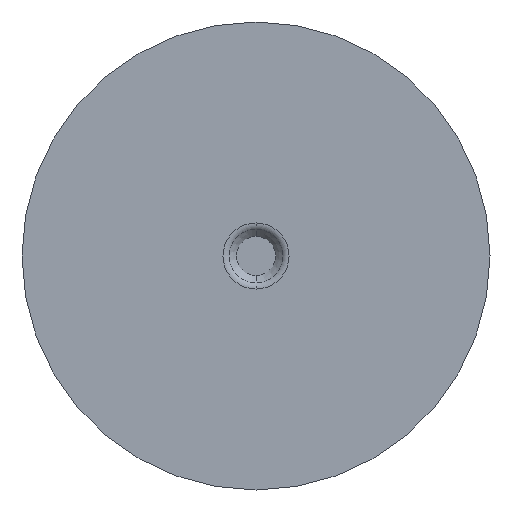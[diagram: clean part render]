
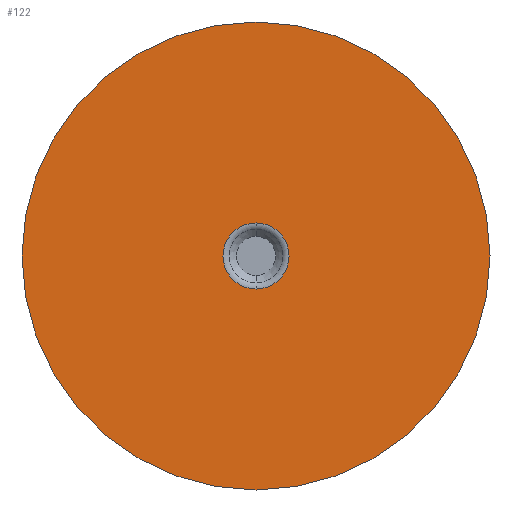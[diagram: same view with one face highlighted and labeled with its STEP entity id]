
A CAD part, front view. The second image highlights one B-rep face of the part: STEP entity #122.
In plain terms, the highlighted planar face has unit normal (0, -1, 0).
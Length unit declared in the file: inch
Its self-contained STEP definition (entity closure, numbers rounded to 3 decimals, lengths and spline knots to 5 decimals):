
#24 = VERTEX_POINT ( 'NONE', #281 ) ;
#32 = ORIENTED_EDGE ( 'NONE', *, *, #369, .F. ) ;
#36 = VERTEX_POINT ( 'NONE', #116 ) ;
#68 = CARTESIAN_POINT ( 'NONE',  ( 0., -0.129, -0.23527 ) ) ;
#100 = DIRECTION ( 'NONE',  ( 0., 0., 1. ) ) ;
#109 = DIRECTION ( 'NONE',  ( 0., 1., 0. ) ) ;
#116 = CARTESIAN_POINT ( 'NONE',  ( 0., -0.129, -1.66724 ) ) ;
#117 = AXIS2_PLACEMENT_3D ( 'NONE', #519, #301, #100 ) ;
#122 = ADVANCED_FACE ( 'NONE', ( #248, #285 ), #175, .F. ) ;
#124 = ORIENTED_EDGE ( 'NONE', *, *, #292, .T. ) ;
#131 = AXIS2_PLACEMENT_3D ( 'NONE', #485, #109, #187 ) ;
#148 = EDGE_LOOP ( 'NONE', ( #401, #124 ) ) ;
#174 = CIRCLE ( 'NONE', #117, 1.66724 ) ;
#175 = PLANE ( 'NONE',  #440 ) ;
#187 = DIRECTION ( 'NONE',  ( 0., 0., 1. ) ) ;
#194 = EDGE_LOOP ( 'NONE', ( #202, #32 ) ) ;
#202 = ORIENTED_EDGE ( 'NONE', *, *, #414, .F. ) ;
#230 = CIRCLE ( 'NONE', #131, 0.23527 ) ;
#236 = CARTESIAN_POINT ( 'NONE',  ( 0., -0.129, 0. ) ) ;
#248 = FACE_OUTER_BOUND ( 'NONE', #194, .T. ) ;
#260 = CIRCLE ( 'NONE', #335, 0.23527 ) ;
#266 = CARTESIAN_POINT ( 'NONE',  ( 0., -0.129, 0. ) ) ;
#272 = CIRCLE ( 'NONE', #399, 1.66724 ) ;
#274 = VERTEX_POINT ( 'NONE', #480 ) ;
#281 = CARTESIAN_POINT ( 'NONE',  ( 0., -0.129, 0.23527 ) ) ;
#285 = FACE_BOUND ( 'NONE', #148, .T. ) ;
#292 = EDGE_CURVE ( 'NONE', #451, #24, #230, .T. ) ;
#301 = DIRECTION ( 'NONE',  ( 0., 1., 0. ) ) ;
#309 = DIRECTION ( 'NONE',  ( 0., 1., 0. ) ) ;
#335 = AXIS2_PLACEMENT_3D ( 'NONE', #236, #494, #543 ) ;
#369 = EDGE_CURVE ( 'NONE', #36, #274, #272, .T. ) ;
#399 = AXIS2_PLACEMENT_3D ( 'NONE', #266, #309, #444 ) ;
#401 = ORIENTED_EDGE ( 'NONE', *, *, #450, .T. ) ;
#414 = EDGE_CURVE ( 'NONE', #274, #36, #174, .T. ) ;
#422 = CARTESIAN_POINT ( 'NONE',  ( 0.23527, -0.129, 0. ) ) ;
#440 = AXIS2_PLACEMENT_3D ( 'NONE', #422, #471, #472 ) ;
#444 = DIRECTION ( 'NONE',  ( 0., 0., 1. ) ) ;
#450 = EDGE_CURVE ( 'NONE', #24, #451, #260, .T. ) ;
#451 = VERTEX_POINT ( 'NONE', #68 ) ;
#471 = DIRECTION ( 'NONE',  ( 0., 1., 0. ) ) ;
#472 = DIRECTION ( 'NONE',  ( 0., 0., 1. ) ) ;
#480 = CARTESIAN_POINT ( 'NONE',  ( 0., -0.129, 1.66724 ) ) ;
#485 = CARTESIAN_POINT ( 'NONE',  ( 0., -0.129, 0. ) ) ;
#494 = DIRECTION ( 'NONE',  ( 0., 1., 0. ) ) ;
#519 = CARTESIAN_POINT ( 'NONE',  ( 0., -0.129, 0. ) ) ;
#543 = DIRECTION ( 'NONE',  ( 0., 0., 1. ) ) ;
